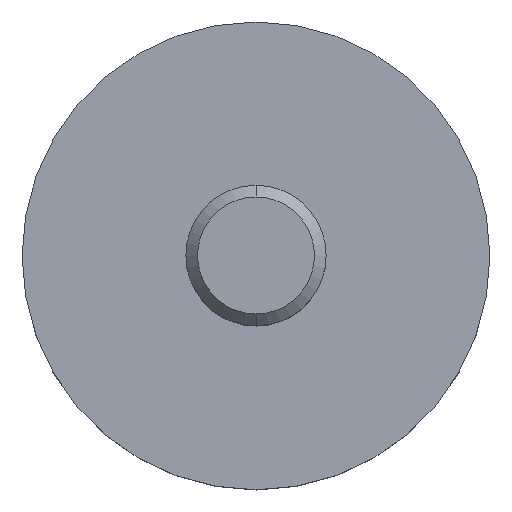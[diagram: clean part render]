
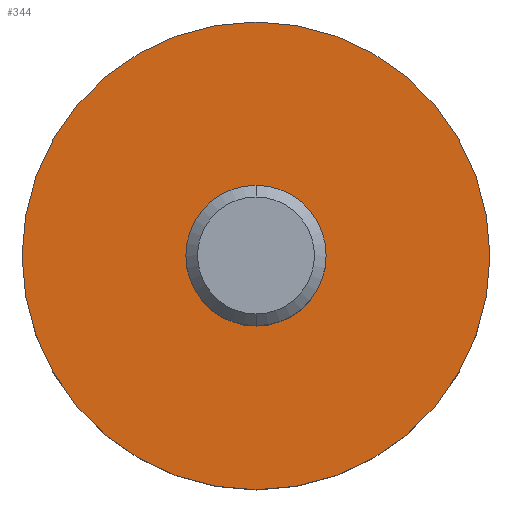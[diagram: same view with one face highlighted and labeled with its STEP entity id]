
A CAD part, top view. The second image highlights one B-rep face of the part: STEP entity #344.
In plain terms, the highlighted planar face has unit normal (0, 0, 1).
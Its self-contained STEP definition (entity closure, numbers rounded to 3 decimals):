
#29=CARTESIAN_POINT('',(0.,0.,-1.));
#30=DIRECTION('',(0.,0.,1.));
#31=DIRECTION('',(0.,1.,0.));
#32=AXIS2_PLACEMENT_3D('',#29,#30,#31);
#34=CARTESIAN_POINT('',(0.,0.,-1.));
#35=DIRECTION('',(0.,0.,-1.));
#36=DIRECTION('',(0.,1.,0.));
#37=AXIS2_PLACEMENT_3D('',#34,#35,#36);
#39=CARTESIAN_POINT('',(0.,0.,-1.));
#40=DIRECTION('',(0.,0.,-1.));
#41=DIRECTION('',(0.,1.,0.));
#42=AXIS2_PLACEMENT_3D('',#39,#40,#41);
#52=CARTESIAN_POINT('',(0.,0.,-1.));
#53=DIRECTION('',(0.,0.,1.));
#54=DIRECTION('',(0.,1.,0.));
#55=AXIS2_PLACEMENT_3D('',#52,#53,#54);
#226=CARTESIAN_POINT('',(0.,1.,-1.));
#228=VERTEX_POINT('',#226);
#229=CARTESIAN_POINT('',(0.,0.3,-1.));
#231=VERTEX_POINT('',#229);
#256=CARTESIAN_POINT('',(0.,-1.,-1.));
#258=VERTEX_POINT('',#256);
#259=CARTESIAN_POINT('',(0.,-0.3,-1.));
#261=VERTEX_POINT('',#259);
#329=CARTESIAN_POINT('',(0.,0.,-1.));
#330=DIRECTION('',(0.,0.,-1.));
#331=DIRECTION('',(0.,-1.,0.));
#332=AXIS2_PLACEMENT_3D('',#329,#330,#331);
#333=PLANE('',#332);
#334=ORIENTED_EDGE('',*,*,#322,.F.);
#335=ORIENTED_EDGE('',*,*,#311,.T.);
#336=EDGE_LOOP('',(#334,#335));
#337=FACE_OUTER_BOUND('',#336,.F.);
#339=ORIENTED_EDGE('',*,*,#338,.F.);
#341=ORIENTED_EDGE('',*,*,#340,.T.);
#342=EDGE_LOOP('',(#339,#341));
#343=FACE_BOUND('',#342,.F.);
#344=ADVANCED_FACE('',(#337,#343),#333,.F.);
#33=CIRCLE('',#32,1.);
#38=CIRCLE('',#37,1.);
#43=CIRCLE('',#42,0.3);
#56=CIRCLE('',#55,0.3);
#311=EDGE_CURVE('',#228,#258,#38,.T.);
#322=EDGE_CURVE('',#228,#258,#33,.T.);
#338=EDGE_CURVE('',#231,#261,#43,.T.);
#340=EDGE_CURVE('',#231,#261,#56,.T.);
